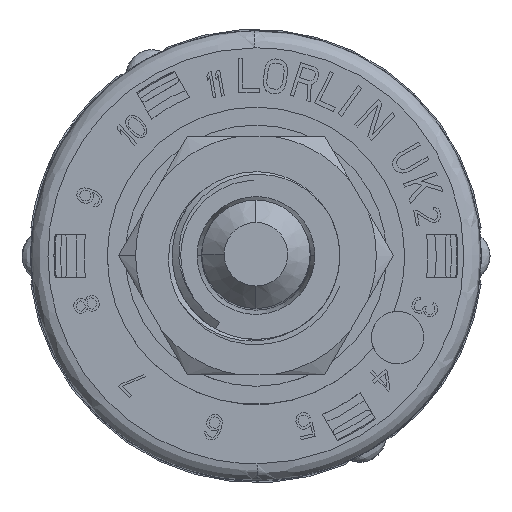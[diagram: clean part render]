
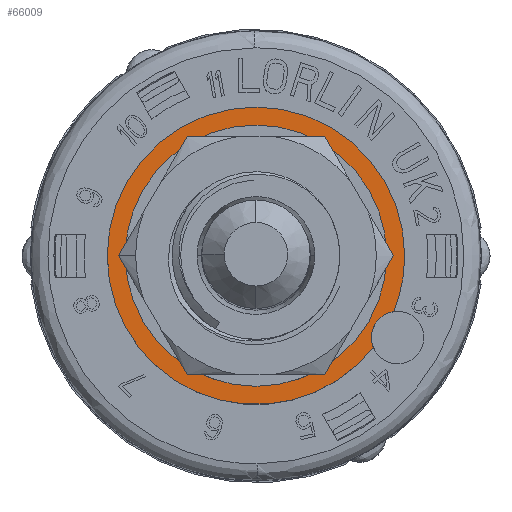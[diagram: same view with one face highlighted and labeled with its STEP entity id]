
A CAD part, top view. The second image highlights one B-rep face of the part: STEP entity #66009.
In plain terms, the highlighted planar face has unit normal (0, 0, 1).
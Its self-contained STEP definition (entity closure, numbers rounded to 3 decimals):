
#2342 = VERTEX_POINT ( 'NONE', #9849 ) ;
#3090 = ORIENTED_EDGE ( 'NONE', *, *, #47768, .F. ) ;
#3984 = EDGE_CURVE ( 'NONE', #41094, #23442, #5794, .T. ) ;
#4096 = DIRECTION ( 'NONE',  ( 0., 0., -1. ) ) ;
#5794 = CIRCLE ( 'NONE', #49719, 7.375 ) ;
#7666 = DIRECTION ( 'NONE',  ( -1., 0., 0. ) ) ;
#7980 = CIRCLE ( 'NONE', #70862, 8.65 ) ;
#8113 = EDGE_CURVE ( 'NONE', #2342, #70010, #84737, .T. ) ;
#9849 = CARTESIAN_POINT ( 'NONE',  ( 7.322, 13.195, 5.979 ) ) ;
#9971 = FACE_OUTER_BOUND ( 'NONE', #66491, .T. ) ;
#11877 = CARTESIAN_POINT ( 'NONE',  ( 22.692, 8.435, 5.979 ) ) ;
#16754 = CIRCLE ( 'NONE', #71763, 1.525 ) ;
#18661 = DIRECTION ( 'NONE',  ( 0., 0., -1. ) ) ;
#20667 = DIRECTION ( 'NONE',  ( 0., 0., -1. ) ) ;
#20879 = CARTESIAN_POINT ( 'NONE',  ( 22.796, 7.88, 5.979 ) ) ;
#23442 = VERTEX_POINT ( 'NONE', #44205 ) ;
#27259 = CARTESIAN_POINT ( 'NONE',  ( 24.622, 13.195, 5.979 ) ) ;
#27428 = CARTESIAN_POINT ( 'NONE',  ( 23.347, 13.195, 5.979 ) ) ;
#29880 = EDGE_CURVE ( 'NONE', #23442, #41094, #85369, .T. ) ;
#30010 = CARTESIAN_POINT ( 'NONE',  ( 15.972, 13.195, 5.979 ) ) ;
#31307 = DIRECTION ( 'NONE',  ( 0., 0., 1. ) ) ;
#31675 = DIRECTION ( 'NONE',  ( 1., 0., 0. ) ) ;
#31775 = VERTEX_POINT ( 'NONE', #11877 ) ;
#32192 = AXIS2_PLACEMENT_3D ( 'NONE', #77475, #69108, #31675 ) ;
#32951 = DIRECTION ( 'NONE',  ( 0., 0., -1. ) ) ;
#36284 = DIRECTION ( 'NONE',  ( -1., 0., 0. ) ) ;
#37729 = DIRECTION ( 'NONE',  ( -1., 0., 0. ) ) ;
#38267 = EDGE_CURVE ( 'NONE', #31775, #41312, #16754, .T. ) ;
#41094 = VERTEX_POINT ( 'NONE', #27428 ) ;
#41312 = VERTEX_POINT ( 'NONE', #20879 ) ;
#43413 = AXIS2_PLACEMENT_3D ( 'NONE', #82584, #31307, #37729 ) ;
#44112 = DIRECTION ( 'NONE',  ( 0., 0., 1. ) ) ;
#44205 = CARTESIAN_POINT ( 'NONE',  ( 8.597, 13.195, 5.979 ) ) ;
#45376 = AXIS2_PLACEMENT_3D ( 'NONE', #30010, #20667, #50615 ) ;
#47768 = EDGE_CURVE ( 'NONE', #41312, #2342, #87917, .T. ) ;
#48128 = CARTESIAN_POINT ( 'NONE',  ( 15.972, 13.195, 5.979 ) ) ;
#49719 = AXIS2_PLACEMENT_3D ( 'NONE', #86620, #18661, #65355 ) ;
#50615 = DIRECTION ( 'NONE',  ( -1., 0., 0. ) ) ;
#53513 = ORIENTED_EDGE ( 'NONE', *, *, #87561, .F. ) ;
#53817 = FACE_BOUND ( 'NONE', #59847, .T. ) ;
#54557 = CIRCLE ( 'NONE', #43413, 1.525 ) ;
#56963 = ORIENTED_EDGE ( 'NONE', *, *, #8113, .F. ) ;
#57390 = ORIENTED_EDGE ( 'NONE', *, *, #3984, .T. ) ;
#59847 = EDGE_LOOP ( 'NONE', ( #80464, #57390 ) ) ;
#61066 = VERTEX_POINT ( 'NONE', #67064 ) ;
#62983 = DIRECTION ( 'NONE',  ( -1., 0., 0. ) ) ;
#64126 = DIRECTION ( 'NONE',  ( -1., 0., 0. ) ) ;
#64195 = AXIS2_PLACEMENT_3D ( 'NONE', #67211, #66715, #7666 ) ;
#65355 = DIRECTION ( 'NONE',  ( -1., 0., 0. ) ) ;
#66009 = ADVANCED_FACE ( 'NONE', ( #53817, #9971 ), #77942, .T. ) ;
#66491 = EDGE_LOOP ( 'NONE', ( #3090, #70128, #96914, #53513, #56963 ) ) ;
#66715 = DIRECTION ( 'NONE',  ( 0., 0., -1. ) ) ;
#67064 = CARTESIAN_POINT ( 'NONE',  ( 23.987, 9.943, 5.979 ) ) ;
#67211 = CARTESIAN_POINT ( 'NONE',  ( 15.972, 13.195, 5.979 ) ) ;
#69108 = DIRECTION ( 'NONE',  ( 0., 0., 1. ) ) ;
#70010 = VERTEX_POINT ( 'NONE', #27259 ) ;
#70128 = ORIENTED_EDGE ( 'NONE', *, *, #38267, .F. ) ;
#70862 = AXIS2_PLACEMENT_3D ( 'NONE', #48128, #32951, #62983 ) ;
#71763 = AXIS2_PLACEMENT_3D ( 'NONE', #72261, #44112, #36284 ) ;
#72261 = CARTESIAN_POINT ( 'NONE',  ( 24.217, 8.435, 5.979 ) ) ;
#75631 = EDGE_CURVE ( 'NONE', #61066, #31775, #54557, .T. ) ;
#77475 = CARTESIAN_POINT ( 'NONE',  ( 15.972, 13.195, 5.979 ) ) ;
#77942 = PLANE ( 'NONE',  #32192 ) ;
#80464 = ORIENTED_EDGE ( 'NONE', *, *, #29880, .T. ) ;
#82584 = CARTESIAN_POINT ( 'NONE',  ( 24.217, 8.435, 5.979 ) ) ;
#84737 = CIRCLE ( 'NONE', #64195, 8.65 ) ;
#85369 = CIRCLE ( 'NONE', #96345, 7.375 ) ;
#86620 = CARTESIAN_POINT ( 'NONE',  ( 15.972, 13.195, 5.979 ) ) ;
#87561 = EDGE_CURVE ( 'NONE', #70010, #61066, #7980, .T. ) ;
#87917 = CIRCLE ( 'NONE', #45376, 8.65 ) ;
#88281 = CARTESIAN_POINT ( 'NONE',  ( 15.972, 13.195, 5.979 ) ) ;
#96345 = AXIS2_PLACEMENT_3D ( 'NONE', #88281, #4096, #64126 ) ;
#96914 = ORIENTED_EDGE ( 'NONE', *, *, #75631, .F. ) ;
